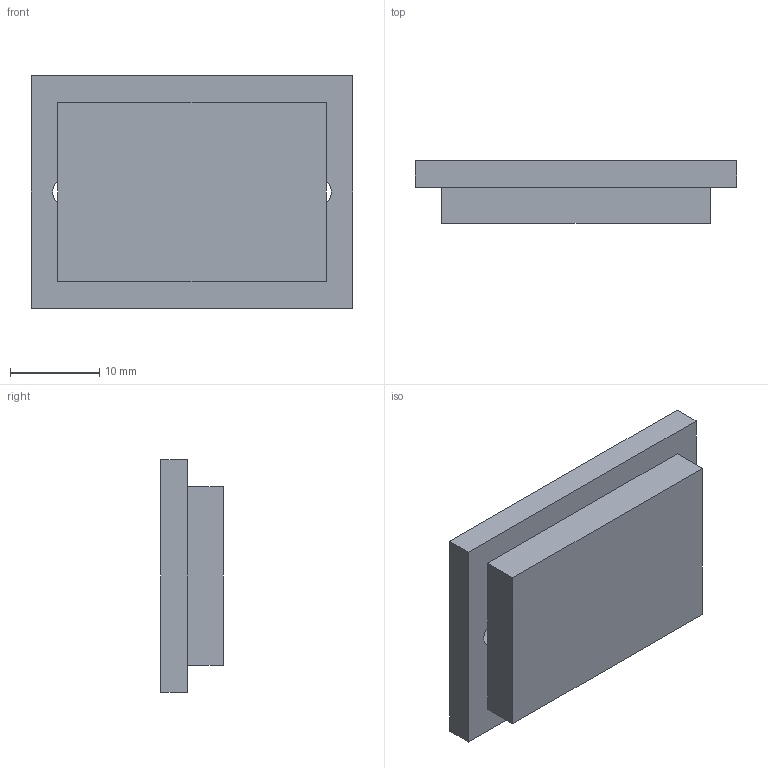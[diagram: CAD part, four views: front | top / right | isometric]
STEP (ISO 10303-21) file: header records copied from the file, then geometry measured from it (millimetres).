
FILE_DESCRIPTION(('Open CASCADE Model'),'2;1');
FILE_NAME('Open CASCADE Shape Model','2026-11-20T16:44:58',('Author'),( 'Open CASCADE'),'Open CASCADE STEP processor 7.9','Open CASCADE 7.9' ,'Unknown');
FILE_SCHEMA(('AUTOMOTIVE_DESIGN { 1 0 10303 214 1 1 1 1 }'));
Length unit declared in the file: millimetre
Products named in the file (1): Open CASCADE STEP translator 7.9 4
Bounding box: 36 x 7 x 26 mm (x, y, z)
Volume: 5159.7 mm3; surface area: 2700.1 mm2
Topology: 1 solids, 1 shells, 15 faces, 38 edges, 24 vertices
Faces by surface type: plane 13, cylinder 2
Full cylindrical faces by diameter (mm): 3.2 x2
Entity records: 946 total; most frequent: CARTESIAN_POINT 168, DIRECTION 140, LINE 84, VECTOR 84, ORIENTED_EDGE 76, PCURVE 76, DEFINITIONAL_REPRESENTATION 76, EDGE_CURVE 38
